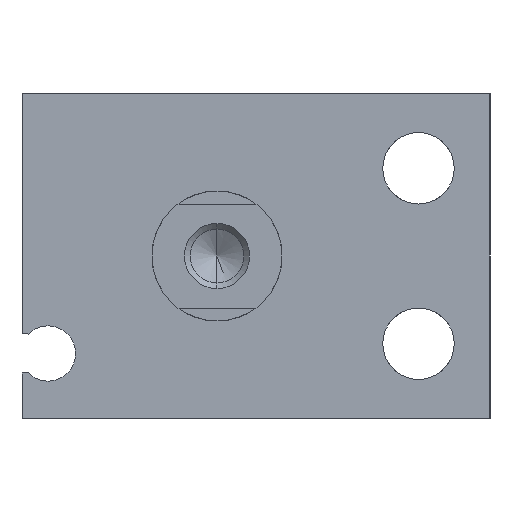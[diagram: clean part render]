
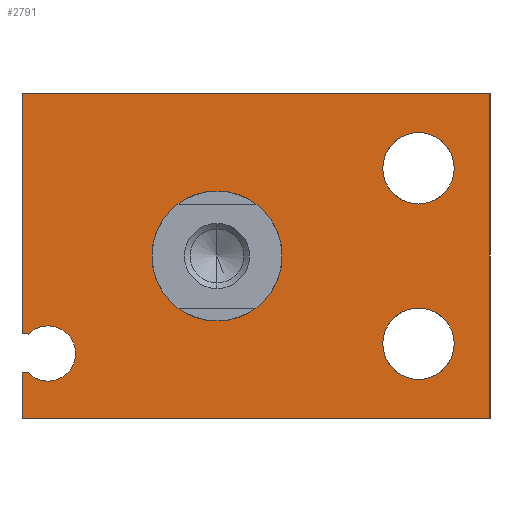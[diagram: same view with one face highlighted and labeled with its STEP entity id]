
A CAD part, left-side view. The second image highlights one B-rep face of the part: STEP entity #2791.
In plain terms, the highlighted planar face has unit normal (-1, 0, 0).
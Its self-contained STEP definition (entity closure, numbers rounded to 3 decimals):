
#6 = ORIENTED_EDGE ( 'NONE', *, *, #585, .F. ) ;
#8 = LINE ( 'NONE', #2522, #55 ) ;
#25 = CARTESIAN_POINT ( 'NONE',  ( 0., 14.505, -9. ) ) ;
#26 = CARTESIAN_POINT ( 'NONE',  ( 0., -15.5, -6.75 ) ) ;
#30 = DIRECTION ( 'NONE',  ( 0., 0., -1. ) ) ;
#46 = CARTESIAN_POINT ( 'NONE',  ( 0., -21., -12.5 ) ) ;
#55 = VECTOR ( 'NONE', #776, 1000. ) ;
#90 = AXIS2_PLACEMENT_3D ( 'NONE', #26, #2053, #3032 ) ;
#107 = AXIS2_PLACEMENT_3D ( 'NONE', #616, #336, #149 ) ;
#144 = FACE_BOUND ( 'NONE', #2125, .T. ) ;
#145 = ORIENTED_EDGE ( 'NONE', *, *, #1459, .F. ) ;
#149 = DIRECTION ( 'NONE',  ( 0., 0., 1. ) ) ;
#154 = EDGE_CURVE ( 'NONE', #448, #353, #2051, .T. ) ;
#231 = CARTESIAN_POINT ( 'NONE',  ( 0., 15., -6. ) ) ;
#304 = DIRECTION ( 'NONE',  ( 0., 0., -1. ) ) ;
#321 = CARTESIAN_POINT ( 'NONE',  ( 0., 0., 0. ) ) ;
#330 = VERTEX_POINT ( 'NONE', #2753 ) ;
#336 = DIRECTION ( 'NONE',  ( -1., 0., 0. ) ) ;
#341 = CIRCLE ( 'NONE', #2195, 5. ) ;
#353 = VERTEX_POINT ( 'NONE', #2280 ) ;
#359 = VERTEX_POINT ( 'NONE', #25 ) ;
#363 = DIRECTION ( 'NONE',  ( 0., 0., 1. ) ) ;
#376 = ORIENTED_EDGE ( 'NONE', *, *, #653, .F. ) ;
#381 = LINE ( 'NONE', #2963, #2339 ) ;
#386 = VERTEX_POINT ( 'NONE', #2035 ) ;
#400 = FACE_BOUND ( 'NONE', #1089, .T. ) ;
#403 = VERTEX_POINT ( 'NONE', #1545 ) ;
#416 = VERTEX_POINT ( 'NONE', #1530 ) ;
#447 = DIRECTION ( 'NONE',  ( 0., 0., 1. ) ) ;
#448 = VERTEX_POINT ( 'NONE', #797 ) ;
#453 = FACE_BOUND ( 'NONE', #1061, .T. ) ;
#460 = CARTESIAN_POINT ( 'NONE',  ( 0., -15.5, 6.75 ) ) ;
#461 = CARTESIAN_POINT ( 'NONE',  ( 0., 13., -7.5 ) ) ;
#462 = EDGE_LOOP ( 'NONE', ( #2123, #2548, #561, #927, #2387, #1897, #3258, #2152, #2360, #2408 ) ) ;
#466 = AXIS2_PLACEMENT_3D ( 'NONE', #865, #1858, #2802 ) ;
#470 = EDGE_CURVE ( 'NONE', #403, #2115, #2095, .T. ) ;
#505 = CARTESIAN_POINT ( 'NONE',  ( 0., 15., 12.5 ) ) ;
#561 = ORIENTED_EDGE ( 'NONE', *, *, #3056, .T. ) ;
#564 = CIRCLE ( 'NONE', #1415, 2.125 ) ;
#585 = EDGE_CURVE ( 'NONE', #608, #330, #2876, .T. ) ;
#608 = VERTEX_POINT ( 'NONE', #1353 ) ;
#616 = CARTESIAN_POINT ( 'NONE',  ( 0., 13., -7.5 ) ) ;
#653 = EDGE_CURVE ( 'NONE', #966, #1100, #1729, .T. ) ;
#706 = CARTESIAN_POINT ( 'NONE',  ( 0., 15., -9. ) ) ;
#707 = DIRECTION ( 'NONE',  ( 0., 1., 0. ) ) ;
#716 = LINE ( 'NONE', #2251, #2355 ) ;
#726 = EDGE_CURVE ( 'NONE', #2099, #1867, #716, .T. ) ;
#747 = EDGE_CURVE ( 'NONE', #785, #386, #1990, .T. ) ;
#770 = CARTESIAN_POINT ( 'NONE',  ( 0., -21., 12.5 ) ) ;
#776 = DIRECTION ( 'NONE',  ( 0., 0., 1. ) ) ;
#785 = VERTEX_POINT ( 'NONE', #505 ) ;
#786 = CARTESIAN_POINT ( 'NONE',  ( 0., -15.5, 6.75 ) ) ;
#797 = CARTESIAN_POINT ( 'NONE',  ( 0., 13., -5.375 ) ) ;
#865 = CARTESIAN_POINT ( 'NONE',  ( 0., -15.5, -6.75 ) ) ;
#915 = PLANE ( 'NONE',  #1745 ) ;
#923 = DIRECTION ( 'NONE',  ( -1., 0., 0. ) ) ;
#925 = AXIS2_PLACEMENT_3D ( 'NONE', #786, #1550, #1059 ) ;
#927 = ORIENTED_EDGE ( 'NONE', *, *, #747, .T. ) ;
#943 = VECTOR ( 'NONE', #3241, 1000. ) ;
#966 = VERTEX_POINT ( 'NONE', #1053 ) ;
#993 = EDGE_CURVE ( 'NONE', #330, #608, #2930, .T. ) ;
#1007 = DIRECTION ( 'NONE',  ( 1., 0., 0. ) ) ;
#1053 = CARTESIAN_POINT ( 'NONE',  ( 0., -15.5, 9.5 ) ) ;
#1059 = DIRECTION ( 'NONE',  ( 0., 0., 1. ) ) ;
#1061 = EDGE_LOOP ( 'NONE', ( #1878, #6 ) ) ;
#1089 = EDGE_LOOP ( 'NONE', ( #1614, #2623 ) ) ;
#1100 = VERTEX_POINT ( 'NONE', #1758 ) ;
#1151 = CARTESIAN_POINT ( 'NONE',  ( 0., 13., -7.5 ) ) ;
#1159 = DIRECTION ( 'NONE',  ( 0., 0., 1. ) ) ;
#1255 = EDGE_CURVE ( 'NONE', #2901, #2099, #3259, .T. ) ;
#1353 = CARTESIAN_POINT ( 'NONE',  ( 0., -15.5, -9.5 ) ) ;
#1415 = AXIS2_PLACEMENT_3D ( 'NONE', #461, #1517, #447 ) ;
#1459 = EDGE_CURVE ( 'NONE', #1100, #966, #2654, .T. ) ;
#1486 = DIRECTION ( 'NONE',  ( 0., -1., 0. ) ) ;
#1517 = DIRECTION ( 'NONE',  ( -1., 0., 0. ) ) ;
#1530 = CARTESIAN_POINT ( 'NONE',  ( 0., 13., -9.625 ) ) ;
#1545 = CARTESIAN_POINT ( 'NONE',  ( 0., 0., 5. ) ) ;
#1550 = DIRECTION ( 'NONE',  ( -1., 0., 0. ) ) ;
#1614 = ORIENTED_EDGE ( 'NONE', *, *, #3159, .T. ) ;
#1655 = FACE_OUTER_BOUND ( 'NONE', #462, .T. ) ;
#1729 = CIRCLE ( 'NONE', #2933, 2.75 ) ;
#1745 = AXIS2_PLACEMENT_3D ( 'NONE', #1151, #2215, #2444 ) ;
#1758 = CARTESIAN_POINT ( 'NONE',  ( 0., -15.5, 4. ) ) ;
#1759 = LINE ( 'NONE', #3016, #3209 ) ;
#1761 = DIRECTION ( 'NONE',  ( 0., 0., -1. ) ) ;
#1776 = DIRECTION ( 'NONE',  ( 0., 1., 0. ) ) ;
#1788 = DIRECTION ( 'NONE',  ( 0., -1., 0. ) ) ;
#1801 = EDGE_CURVE ( 'NONE', #416, #448, #564, .T. ) ;
#1833 = DIRECTION ( 'NONE',  ( -1., 0., 0. ) ) ;
#1858 = DIRECTION ( 'NONE',  ( -1., 0., 0. ) ) ;
#1867 = VERTEX_POINT ( 'NONE', #46 ) ;
#1878 = ORIENTED_EDGE ( 'NONE', *, *, #993, .F. ) ;
#1897 = ORIENTED_EDGE ( 'NONE', *, *, #154, .F. ) ;
#1958 = AXIS2_PLACEMENT_3D ( 'NONE', #2810, #1833, #363 ) ;
#1990 = LINE ( 'NONE', #2483, #3082 ) ;
#2032 = CARTESIAN_POINT ( 'NONE',  ( 0., 0., -5. ) ) ;
#2035 = CARTESIAN_POINT ( 'NONE',  ( 0., 15., -6. ) ) ;
#2051 = CIRCLE ( 'NONE', #107, 2.125 ) ;
#2053 = DIRECTION ( 'NONE',  ( -1., 0., 0. ) ) ;
#2095 = CIRCLE ( 'NONE', #2413, 5. ) ;
#2099 = VERTEX_POINT ( 'NONE', #3217 ) ;
#2115 = VERTEX_POINT ( 'NONE', #2032 ) ;
#2117 = EDGE_CURVE ( 'NONE', #386, #353, #3014, .T. ) ;
#2123 = ORIENTED_EDGE ( 'NONE', *, *, #726, .T. ) ;
#2125 = EDGE_LOOP ( 'NONE', ( #376, #145 ) ) ;
#2141 = EDGE_CURVE ( 'NONE', #1867, #3156, #8, .T. ) ;
#2152 = ORIENTED_EDGE ( 'NONE', *, *, #2899, .F. ) ;
#2195 = AXIS2_PLACEMENT_3D ( 'NONE', #2300, #1007, #30 ) ;
#2215 = DIRECTION ( 'NONE',  ( -1., 0., 0. ) ) ;
#2251 = CARTESIAN_POINT ( 'NONE',  ( 0., 15., -12.5 ) ) ;
#2280 = CARTESIAN_POINT ( 'NONE',  ( 0., 14.505, -6. ) ) ;
#2300 = CARTESIAN_POINT ( 'NONE',  ( 0., 0., 0. ) ) ;
#2326 = CARTESIAN_POINT ( 'NONE',  ( 0., 15., -9. ) ) ;
#2339 = VECTOR ( 'NONE', #707, 1000. ) ;
#2355 = VECTOR ( 'NONE', #1486, 1000. ) ;
#2360 = ORIENTED_EDGE ( 'NONE', *, *, #2426, .T. ) ;
#2387 = ORIENTED_EDGE ( 'NONE', *, *, #2117, .T. ) ;
#2408 = ORIENTED_EDGE ( 'NONE', *, *, #1255, .T. ) ;
#2413 = AXIS2_PLACEMENT_3D ( 'NONE', #321, #2558, #304 ) ;
#2426 = EDGE_CURVE ( 'NONE', #359, #2901, #1759, .T. ) ;
#2444 = DIRECTION ( 'NONE',  ( 0., 0., 1. ) ) ;
#2483 = CARTESIAN_POINT ( 'NONE',  ( 0., 15., 12.5 ) ) ;
#2522 = CARTESIAN_POINT ( 'NONE',  ( 0., -21., -12.5 ) ) ;
#2524 = VECTOR ( 'NONE', #1788, 1000. ) ;
#2548 = ORIENTED_EDGE ( 'NONE', *, *, #2141, .T. ) ;
#2558 = DIRECTION ( 'NONE',  ( 1., 0., 0. ) ) ;
#2623 = ORIENTED_EDGE ( 'NONE', *, *, #470, .T. ) ;
#2654 = CIRCLE ( 'NONE', #925, 2.75 ) ;
#2753 = CARTESIAN_POINT ( 'NONE',  ( 0., -15.5, -4. ) ) ;
#2782 = CIRCLE ( 'NONE', #1958, 2.125 ) ;
#2791 = ADVANCED_FACE ( 'NONE', ( #1655, #400, #453, #144 ), #915, .T. ) ;
#2802 = DIRECTION ( 'NONE',  ( 0., 0., 1. ) ) ;
#2810 = CARTESIAN_POINT ( 'NONE',  ( 0., 13., -7.5 ) ) ;
#2876 = CIRCLE ( 'NONE', #466, 2.75 ) ;
#2899 = EDGE_CURVE ( 'NONE', #359, #416, #2782, .T. ) ;
#2901 = VERTEX_POINT ( 'NONE', #2326 ) ;
#2930 = CIRCLE ( 'NONE', #90, 2.75 ) ;
#2933 = AXIS2_PLACEMENT_3D ( 'NONE', #460, #923, #1159 ) ;
#2963 = CARTESIAN_POINT ( 'NONE',  ( 0., -21., 12.5 ) ) ;
#3014 = LINE ( 'NONE', #231, #2524 ) ;
#3016 = CARTESIAN_POINT ( 'NONE',  ( 0., 14.505, -9. ) ) ;
#3032 = DIRECTION ( 'NONE',  ( 0., 0., 1. ) ) ;
#3056 = EDGE_CURVE ( 'NONE', #3156, #785, #381, .T. ) ;
#3082 = VECTOR ( 'NONE', #1761, 1000. ) ;
#3156 = VERTEX_POINT ( 'NONE', #770 ) ;
#3159 = EDGE_CURVE ( 'NONE', #2115, #403, #341, .T. ) ;
#3209 = VECTOR ( 'NONE', #1776, 1000. ) ;
#3217 = CARTESIAN_POINT ( 'NONE',  ( 0., 15., -12.5 ) ) ;
#3241 = DIRECTION ( 'NONE',  ( 0., 0., -1. ) ) ;
#3258 = ORIENTED_EDGE ( 'NONE', *, *, #1801, .F. ) ;
#3259 = LINE ( 'NONE', #706, #943 ) ;
